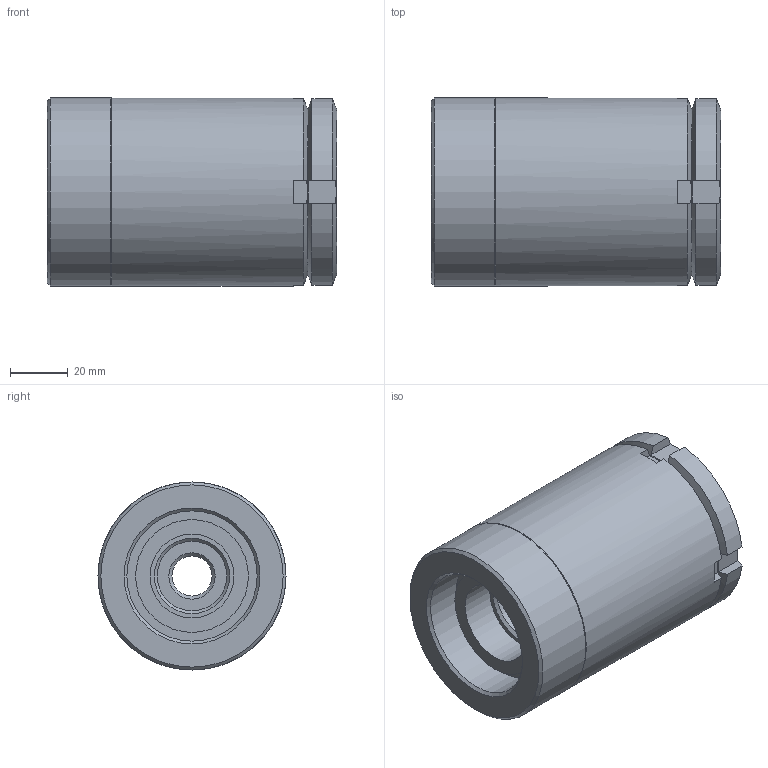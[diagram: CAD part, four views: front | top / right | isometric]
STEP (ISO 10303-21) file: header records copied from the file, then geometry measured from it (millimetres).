
FILE_DESCRIPTION( ( 'STEP AP203' ), '1' );
FILE_NAME( 'C:/Temp/Ganter_Step_05_03_2020/data/3_2/gn360/gn360_ni/Stainless Steel-Levelling set GN 360-65-M16-148-A-NI (0-0).stp', '2020-03-13T05:42:05', ( 'License CC BY-ND 4.0' ), ( 'CADENAS' ), ' ', 'PARTsolutions', ' ' );
FILE_SCHEMA( ( 'CONFIG_CONTROL_DESIGN' ) );
Length unit declared in the file: millimetre
Products named in the file (4): Stainless Steel-Levelling set GN 360-65-M16-148-A-NI (0-0); _Stainless Steel-Levelling set GN 360-65-M16-148-A-NI (0-0)-1; _Stainless Steel-Levelling set GN 360-65-M16-148-A-NI (0-0)-2; _Stainless Steel-Levelling set GN 360-65-M16-148-A-NI (0-0)-3
Assembly tree (3 placements, depth 2):
  Stainless Steel-Levelling set GN 360-65-M16-148-A-NI (0-0)
    _Stainless Steel-Levelling set GN 360-65-M16-148-A-NI (0-0)-1
    _Stainless Steel-Levelling set GN 360-65-M16-148-A-NI (0-0)-2
    _Stainless Steel-Levelling set GN 360-65-M16-148-A-NI (0-0)-3
Bounding box: 100 x 65 x 65 mm (x, y, z)
Volume: 272556.6 mm3; surface area: 65048.1 mm2
Topology: 3 solids, 3 shells, 72 faces, 167 edges, 107 vertices
Faces by surface type: plane 40, cylinder 17, cone 12, sphere 2, torus 1
Full cylindrical faces by diameter (mm): 13.835 x1, 24 x1, 29 x1, 32 x1, 38 x1, 39 x1, 43 x1, 43.376 x1, 45 x2, 45.5 x1, 65 x2
Entity records: 2137 total; most frequent: CARTESIAN_POINT 516, DIRECTION 304, ORIENTED_EDGE 268, EDGE_CURVE 134, AXIS2_PLACEMENT_3D 130, EDGE_LOOP 112, VERTEX_POINT 102, FACE_OUTER_BOUND 88
